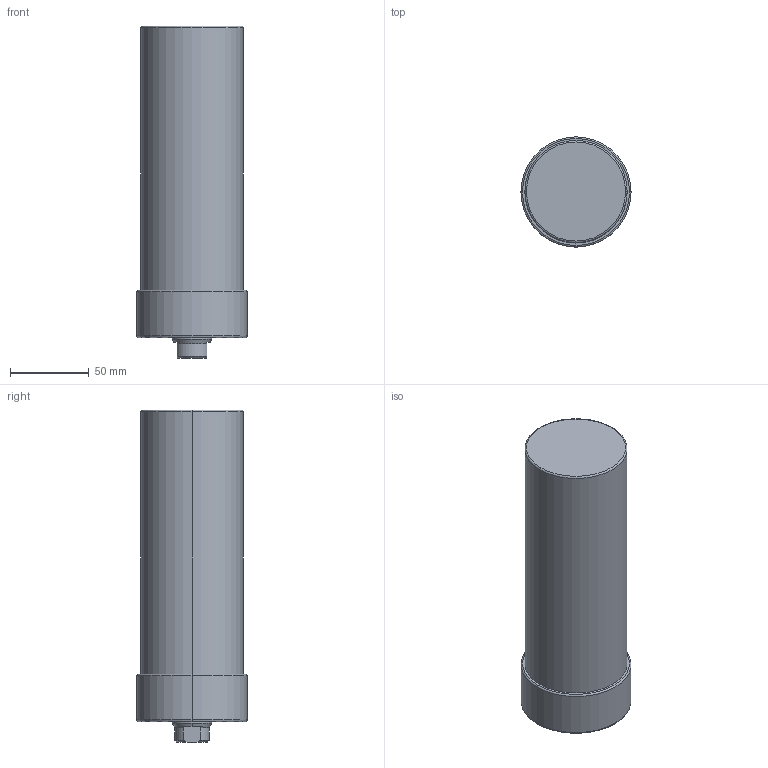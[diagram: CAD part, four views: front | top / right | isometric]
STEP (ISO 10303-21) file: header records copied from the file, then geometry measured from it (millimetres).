
FILE_DESCRIPTION (( 'STEP AP203' ), '1' );
FILE_NAME ('CLLU-065GA-135.STEP', '2020-01-07T00:14:27', ( '' ), ( '' ), 'SwSTEP 2.0', 'SolidWorks 2015', '' );
FILE_SCHEMA (( 'CONFIG_CONTROL_DESIGN' ));
Length unit declared in the file: millimetre
Products named in the file (1): CLLU-065GA-135
Bounding box: 70 x 70 x 211 mm (x, y, z)
Volume: 673363.5 mm3; surface area: 51330.8 mm2
Topology: 1 solids, 1 shells, 62 faces, 140 edges, 79 vertices
Faces by surface type: cone 24, cylinder 22, plane 10, torus 6
Entity records: 1751 total; most frequent: DIRECTION 320, CARTESIAN_POINT 300, ORIENTED_EDGE 260, AXIS2_PLACEMENT_3D 135, EDGE_CURVE 130, VERTEX_POINT 79, CIRCLE 72, EDGE_LOOP 71
